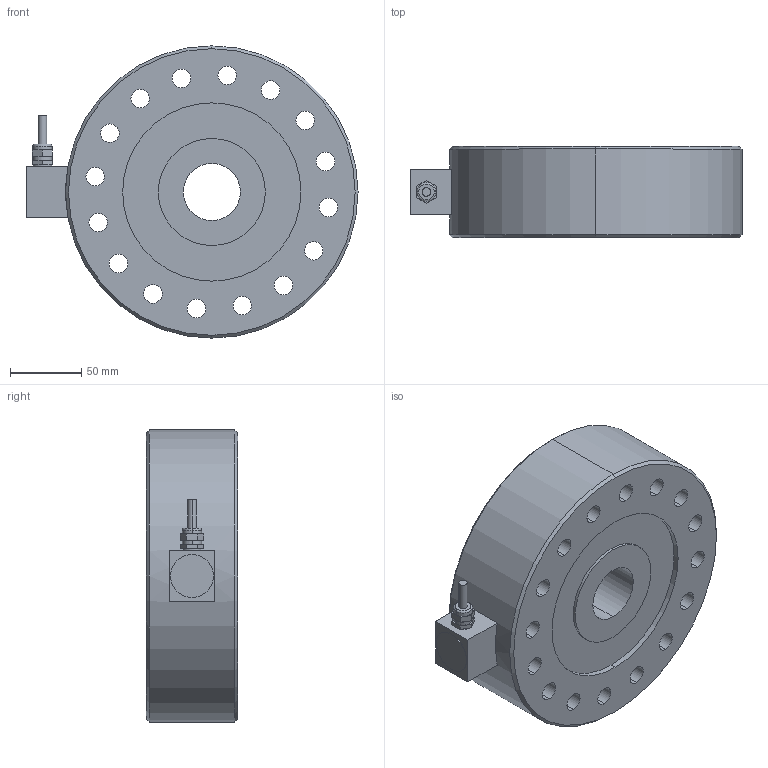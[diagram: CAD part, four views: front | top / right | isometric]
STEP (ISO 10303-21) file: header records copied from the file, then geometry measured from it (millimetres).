
FILE_DESCRIPTION (( 'STEP AP203' ), '1' );
FILE_NAME ('363YS-50t-YZ 3D耀倰.STEP', '2026-06-18T00:38:51', ( '' ), ( '' ), 'SwSTEP 2.0', 'SolidWorks 2024', '' );
FILE_SCHEMA (( 'CONFIG_CONTROL_DESIGN' ));
Length unit declared in the file: millimetre
Products named in the file (1): 363YS-50t-YZ  3D模型
Bounding box: 232.8 x 64 x 205 mm (x, y, z)
Volume: 1853508.6 mm3; surface area: 157485.8 mm2
Topology: 1 solids, 1 shells, 90 faces, 222 edges, 146 vertices
Faces by surface type: cylinder 54, plane 30, cone 4, torus 2
Entity records: 2861 total; most frequent: DIRECTION 522, CARTESIAN_POINT 459, ORIENTED_EDGE 444, EDGE_CURVE 222, AXIS2_PLACEMENT_3D 209, VERTEX_POINT 146, EDGE_LOOP 136, CIRCLE 118
